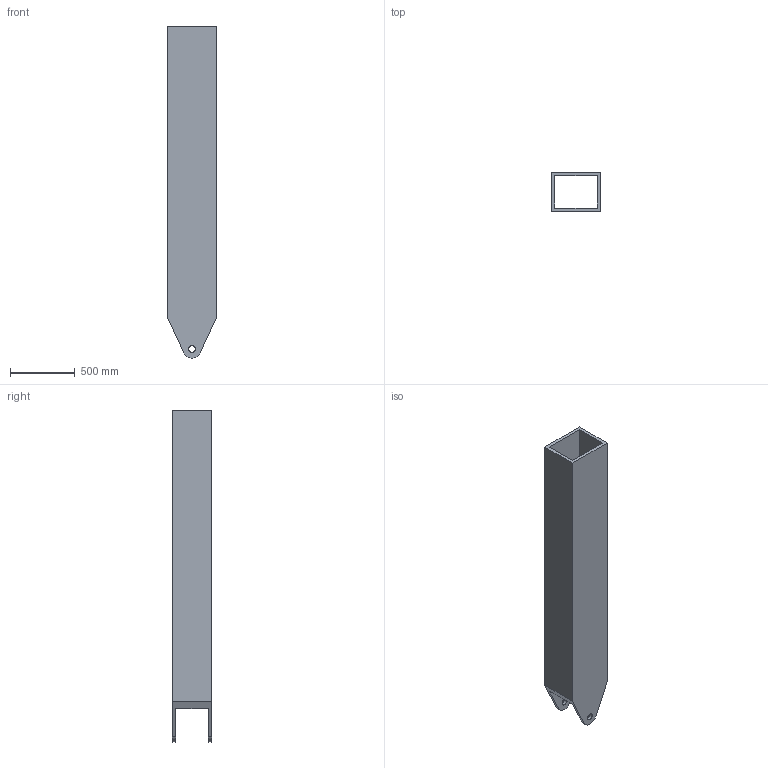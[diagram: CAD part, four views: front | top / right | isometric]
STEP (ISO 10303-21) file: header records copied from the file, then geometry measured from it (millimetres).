
FILE_DESCRIPTION(/* description */ (''),/* implementation_level */ '2;1');
FILE_NAME(/* name */ 'Link3.stp',/* time_stamp */ '2024-04-02T18:23:48+02:00',/* author */ ('JL'),/* organization */ (''),/* preprocessor_version */ 'ST-DEVELOPER v19.2',/* originating_system */ 'Autodesk Inventor 2023',/* authorisation */ '');
FILE_SCHEMA (('AUTOMOTIVE_DESIGN { 1 0 10303 214 3 1 1 }'));
Length unit declared in the file: millimetre
Products named in the file (1): Link3n
Bounding box: 381 x 304.8 x 2569.73 mm (x, y, z)
Volume: 76763461.2 mm3; surface area: 6150983.1 mm2
Topology: 1 solids, 1 shells, 15 faces, 42 edges, 28 vertices
Faces by surface type: plane 11, cylinder 4
Full cylindrical faces by diameter (mm): 50 x2
Entity records: 545 total; most frequent: CARTESIAN_POINT 87, ORIENTED_EDGE 84, DIRECTION 84, EDGE_CURVE 42, LINE 34, VECTOR 34, VERTEX_POINT 28, AXIS2_PLACEMENT_3D 25
